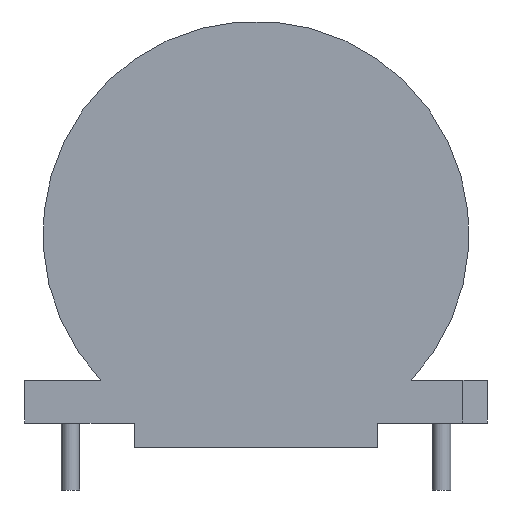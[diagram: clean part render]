
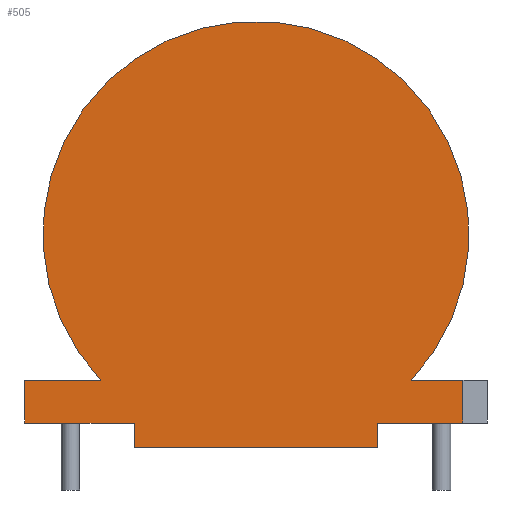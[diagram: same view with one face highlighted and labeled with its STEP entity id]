
A CAD part, front view. The second image highlights one B-rep face of the part: STEP entity #505.
In plain terms, the highlighted planar face has unit normal (0, -1, 0).
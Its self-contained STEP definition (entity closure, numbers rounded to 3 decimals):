
#37=CIRCLE('',#548,17.5);
#64=FACE_OUTER_BOUND('',#99,.T.);
#99=EDGE_LOOP('',(#430,#431,#432,#433,#434,#435,#436,#437,#438,#439));
#107=LINE('',#699,#162);
#111=LINE('',#708,#166);
#135=LINE('',#780,#190);
#139=LINE('',#787,#194);
#140=LINE('',#789,#195);
#151=LINE('',#816,#206);
#153=LINE('',#821,#208);
#157=LINE('',#827,#212);
#158=LINE('',#828,#213);
#162=VECTOR('',#562,10.);
#166=VECTOR('',#570,10.);
#190=VECTOR('',#638,10.);
#194=VECTOR('',#644,10.);
#195=VECTOR('',#647,10.);
#206=VECTOR('',#672,10.);
#208=VECTOR('',#676,10.);
#212=VECTOR('',#684,10.);
#213=VECTOR('',#685,10.);
#214=VERTEX_POINT('',#692);
#217=VERTEX_POINT('',#697);
#220=VERTEX_POINT('',#707);
#246=VERTEX_POINT('',#779);
#247=VERTEX_POINT('',#783);
#248=VERTEX_POINT('',#785);
#253=VERTEX_POINT('',#804);
#255=VERTEX_POINT('',#808);
#257=VERTEX_POINT('',#814);
#259=VERTEX_POINT('',#819);
#263=EDGE_CURVE('',#217,#214,#107,.T.);
#267=EDGE_CURVE('',#220,#214,#111,.T.);
#299=EDGE_CURVE('',#220,#246,#135,.T.);
#303=EDGE_CURVE('',#247,#248,#139,.T.);
#304=EDGE_CURVE('',#246,#248,#140,.T.);
#314=EDGE_CURVE('',#253,#255,#37,.T.);
#317=EDGE_CURVE('',#257,#255,#151,.T.);
#319=EDGE_CURVE('',#259,#257,#153,.T.);
#323=EDGE_CURVE('',#253,#217,#157,.T.);
#324=EDGE_CURVE('',#259,#247,#158,.T.);
#430=ORIENTED_EDGE('',*,*,#263,.F.);
#431=ORIENTED_EDGE('',*,*,#323,.F.);
#432=ORIENTED_EDGE('',*,*,#314,.T.);
#433=ORIENTED_EDGE('',*,*,#317,.F.);
#434=ORIENTED_EDGE('',*,*,#319,.F.);
#435=ORIENTED_EDGE('',*,*,#324,.T.);
#436=ORIENTED_EDGE('',*,*,#303,.T.);
#437=ORIENTED_EDGE('',*,*,#304,.F.);
#438=ORIENTED_EDGE('',*,*,#299,.F.);
#439=ORIENTED_EDGE('',*,*,#267,.T.);
#476=PLANE('',#552);
#505=ADVANCED_FACE('',(#64),#476,.T.);
#548=AXIS2_PLACEMENT_3D('',#810,#666,#667);
#552=AXIS2_PLACEMENT_3D('',#826,#682,#683);
#562=DIRECTION('',(0.,0.,-1.));
#570=DIRECTION('',(1.,0.,0.));
#638=DIRECTION('',(0.,0.,-1.));
#644=DIRECTION('',(0.,0.,-1.));
#647=DIRECTION('',(-1.,0.,0.));
#666=DIRECTION('center_axis',(0.,-1.,0.));
#667=DIRECTION('ref_axis',(0.728,0.,0.686));
#672=DIRECTION('',(1.,0.,0.));
#676=DIRECTION('',(0.,0.,1.));
#682=DIRECTION('center_axis',(0.,-1.,0.));
#683=DIRECTION('ref_axis',(1.,0.,0.));
#684=DIRECTION('',(1.,0.,0.));
#685=DIRECTION('',(1.,0.,0.));
#692=CARTESIAN_POINT('',(17.,-11.,0.));
#697=CARTESIAN_POINT('',(17.,-11.,3.5));
#699=CARTESIAN_POINT('',(17.,-11.,0.));
#707=CARTESIAN_POINT('',(10.,-11.,0.));
#708=CARTESIAN_POINT('',(-19.,-11.,0.));
#779=CARTESIAN_POINT('',(10.,-11.,-2.));
#780=CARTESIAN_POINT('',(10.,-11.,0.));
#783=CARTESIAN_POINT('',(-10.,-11.,0.));
#785=CARTESIAN_POINT('',(-10.,-11.,-2.));
#787=CARTESIAN_POINT('',(-10.,-11.,0.));
#789=CARTESIAN_POINT('',(-19.,-11.,-2.));
#804=CARTESIAN_POINT('',(12.738,-11.,3.5));
#808=CARTESIAN_POINT('',(-12.738,-11.,3.5));
#810=CARTESIAN_POINT('Origin',(0.,-11.,15.5));
#814=CARTESIAN_POINT('',(-19.,-11.,3.5));
#816=CARTESIAN_POINT('',(-19.,-11.,3.5));
#819=CARTESIAN_POINT('',(-19.,-11.,0.));
#821=CARTESIAN_POINT('',(-19.,-11.,0.));
#826=CARTESIAN_POINT('Origin',(-19.,-11.,0.));
#827=CARTESIAN_POINT('',(-19.,-11.,3.5));
#828=CARTESIAN_POINT('',(-19.,-11.,0.));
